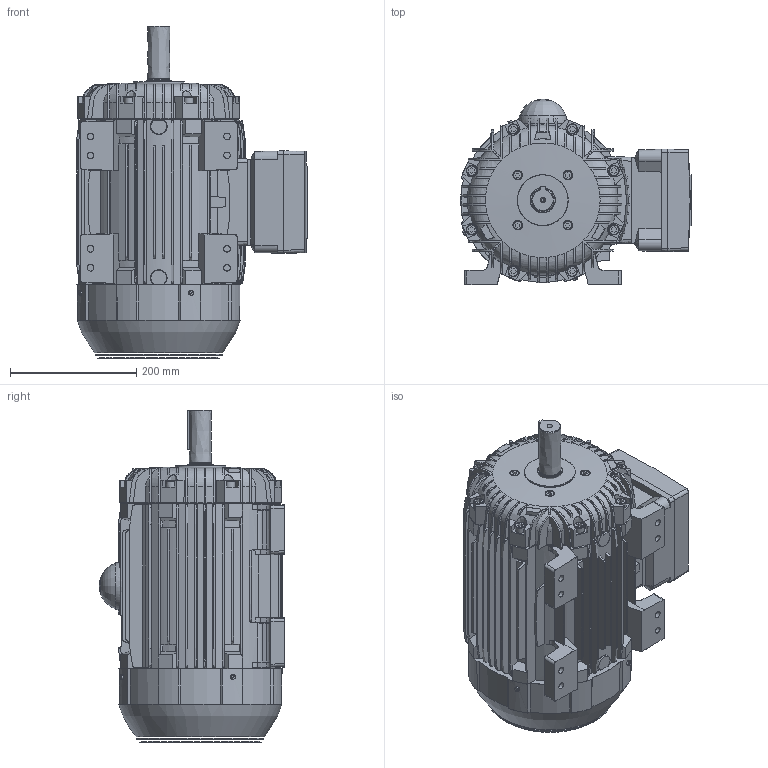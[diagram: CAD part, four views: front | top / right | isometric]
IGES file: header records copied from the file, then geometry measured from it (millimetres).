
Start section: SolidWorks IGES file using analytic representation for surfaces
Global section: file name: C:\Users\ianr\Desktop\RES Motor à Prova de Explosão NEMA (APVEN e Blblioteca CAD)\EXPLOSION_PROOF_MOTOR\07_FRAME_L215T\STANDARD\IGS\L215T_RIGHT.IGS; native system: SolidWorks 2016; preprocessor: SolidWorks 2016; author: ianr; date: 180620.135153; units: millimetre
Bounding box: 364.85 x 293.35 x 524.98 mm (x, y, z)
Surface area: 1128975.6 mm2 (no closed solid volume)
Topology: 0 solids, 0 shells, 2717 faces, 20328 edges, 20242 vertices
Faces by surface type: bspline 2379, revolution 338
